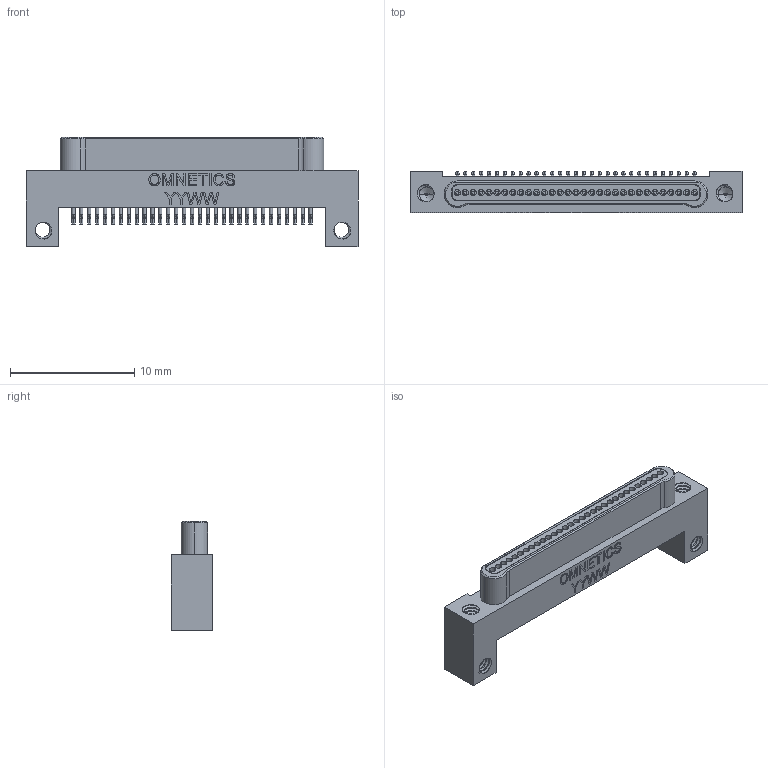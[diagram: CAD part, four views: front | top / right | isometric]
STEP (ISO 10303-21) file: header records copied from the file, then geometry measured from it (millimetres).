
FILE_DESCRIPTION (( 'STEP AP214' ), '1' );
FILE_NAME ('A54100-031 REV F.STEP', '2021-02-23T18:35:02', ( '' ), ( '' ), 'SwSTEP 2.0', 'SolidWorks 2019', '' );
FILE_SCHEMA (( 'AUTOMOTIVE_DESIGN' ));
Length unit declared in the file: inch
Products named in the file (1): A54100-031 REV F
Bounding box: 26.67 x 3.31 x 8.76 mm (x, y, z)
Volume: 348.1 mm3; surface area: 1175.4 mm2
Topology: 1 solids, 1 shells, 925 faces, 2162 edges, 1376 vertices
Faces by surface type: cylinder 457, plane 266, torus 124, bspline 62, cone 16
Entity records: 48415 total; most frequent: CARTESIAN_POINT 15208, DIRECTION 4574, ORIENTED_EDGE 4324, EDGE_CURVE 2162, AXIS2_PLACEMENT_3D 1850, VERTEX_POINT 1376, EDGE_LOOP 1070, CIRCLE 986
